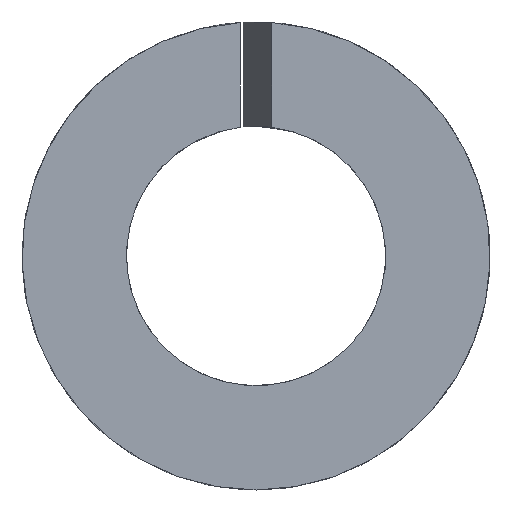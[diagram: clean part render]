
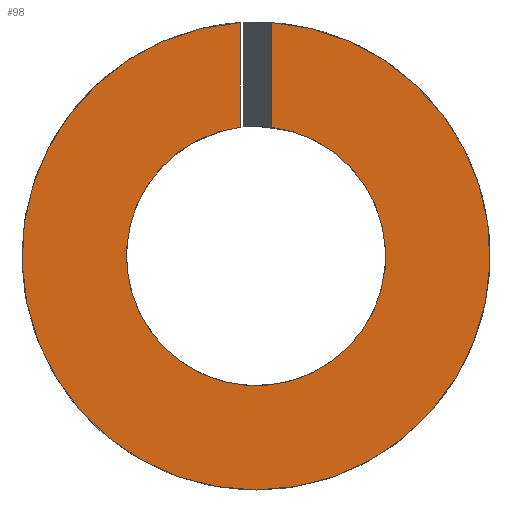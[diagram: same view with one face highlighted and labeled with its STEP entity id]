
A CAD part, left-side view. The second image highlights one B-rep face of the part: STEP entity #98.
In plain terms, the highlighted planar face has unit normal (-1, 0, 0).
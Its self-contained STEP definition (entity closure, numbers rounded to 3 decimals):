
#19=CIRCLE('',#132,4.1);
#20=CIRCLE('',#134,7.4);
#26=FACE_OUTER_BOUND('',#32,.T.);
#32=EDGE_LOOP('',(#85,#86,#87,#88));
#34=LINE('',#179,#38);
#35=LINE('',#185,#39);
#38=VECTOR('',#145,10.);
#39=VECTOR('',#150,10.);
#46=VERTEX_POINT('',#173);
#48=VERTEX_POINT('',#177);
#49=VERTEX_POINT('',#181);
#51=VERTEX_POINT('',#184);
#56=EDGE_CURVE('',#46,#48,#34,.T.);
#58=EDGE_CURVE('',#51,#49,#35,.T.);
#63=EDGE_CURVE('',#49,#46,#19,.T.);
#64=EDGE_CURVE('',#48,#51,#20,.T.);
#85=ORIENTED_EDGE('',*,*,#58,.T.);
#86=ORIENTED_EDGE('',*,*,#63,.T.);
#87=ORIENTED_EDGE('',*,*,#56,.T.);
#88=ORIENTED_EDGE('',*,*,#64,.T.);
#92=PLANE('',#135);
#98=ADVANCED_FACE('',(#26),#92,.T.);
#132=AXIS2_PLACEMENT_3D('',#193,#162,#163);
#134=AXIS2_PLACEMENT_3D('',#195,#166,#167);
#135=AXIS2_PLACEMENT_3D('',#196,#168,#169);
#145=DIRECTION('',(0.,0.,1.));
#150=DIRECTION('',(0.,0.,-1.));
#162=DIRECTION('center_axis',(1.,0.,0.));
#163=DIRECTION('ref_axis',(0.,-1.,0.));
#166=DIRECTION('center_axis',(-1.,0.,0.));
#167=DIRECTION('ref_axis',(0.,-1.,0.));
#168=DIRECTION('center_axis',(-1.,0.,0.));
#169=DIRECTION('ref_axis',(0.,0.,1.));
#173=CARTESIAN_POINT('',(0.,0.5,4.069));
#177=CARTESIAN_POINT('',(0.,0.5,7.383));
#179=CARTESIAN_POINT('',(0.,0.5,0.));
#181=CARTESIAN_POINT('',(0.,-0.5,4.069));
#184=CARTESIAN_POINT('',(0.,-0.5,7.383));
#185=CARTESIAN_POINT('',(0.,-0.5,0.));
#193=CARTESIAN_POINT('Origin',(0.,0.,0.));
#195=CARTESIAN_POINT('Origin',(0.,0.,0.));
#196=CARTESIAN_POINT('Origin',(0.,0.,0.));
